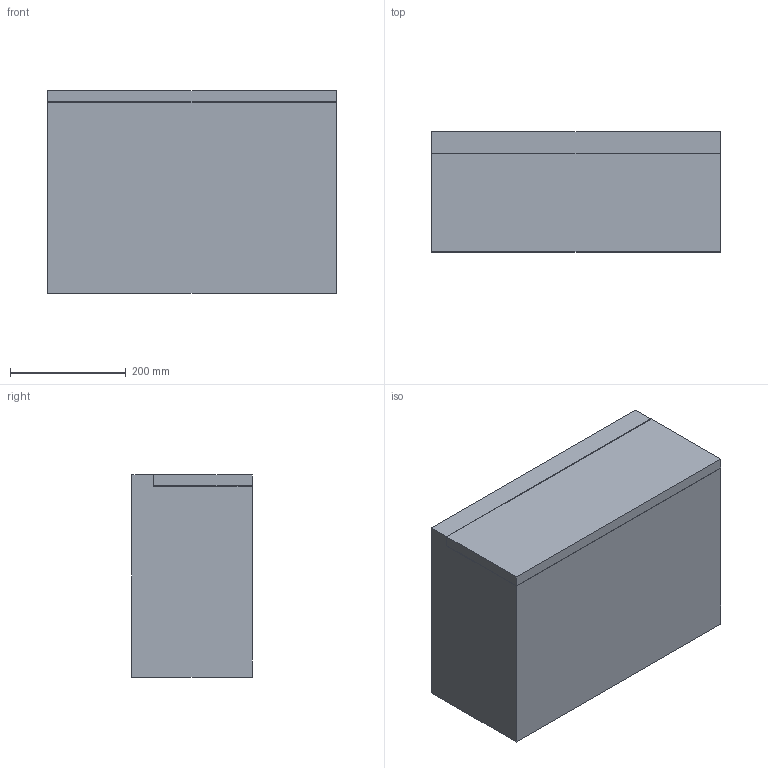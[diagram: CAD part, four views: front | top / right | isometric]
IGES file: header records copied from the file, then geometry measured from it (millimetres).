
Start section:  PTC IGES file: fu10407u.igs
Global section: file name: fu10407u.igs; native system: Pro/ENGINEER by Parametric Technology Corporation; preprocessor: 2010180; author: damjan; organization: Unknown; date: 20110531.085115; units: millimetre
Bounding box: 500 x 208 x 350 mm (x, y, z)
Volume: 35753758.9 mm3; surface area: 928538.8 mm2
Topology: 2 solids, 2 shells, 20 faces, 42 edges, 28 vertices
Faces by surface type: bspline 16, revolution 4
